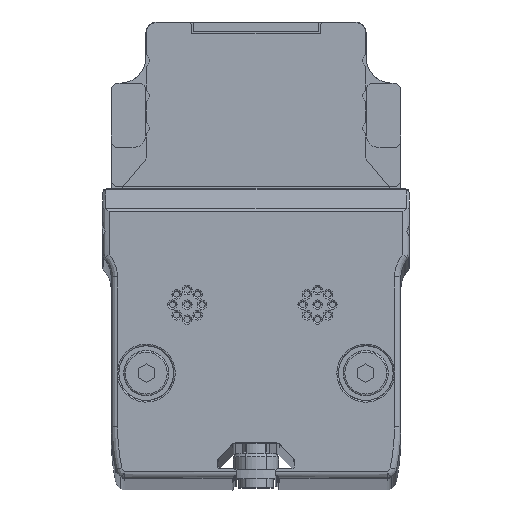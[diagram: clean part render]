
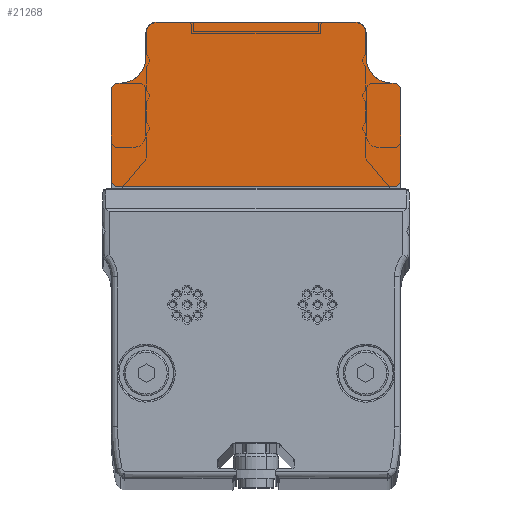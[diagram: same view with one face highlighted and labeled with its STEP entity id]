
A CAD part, top view. The second image highlights one B-rep face of the part: STEP entity #21268.
In plain terms, the highlighted planar face has unit normal (0, 0, 1).
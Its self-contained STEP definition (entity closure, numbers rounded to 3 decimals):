
#25 = EDGE_CURVE ( 'NONE', #8576, #2369, #17615, .T. ) ;
#31 = CARTESIAN_POINT ( 'NONE',  ( 21.1, 38.9, 1004. ) ) ;
#43 = ORIENTED_EDGE ( 'NONE', *, *, #28487, .F. ) ;
#398 = EDGE_LOOP ( 'NONE', ( #7711, #15125, #22233, #20489, #43, #25887, #6424, #26645, #848, #17654, #24917, #5018, #15417, #24549, #20067, #12715 ) ) ;
#848 = ORIENTED_EDGE ( 'NONE', *, *, #3444, .T. ) ;
#1324 = VERTEX_POINT ( 'NONE', #30968 ) ;
#1342 = AXIS2_PLACEMENT_3D ( 'NONE', #13102, #5169, #7816 ) ;
#1560 = DIRECTION ( 'NONE',  ( -1., 0., 0. ) ) ;
#1963 = DIRECTION ( 'NONE',  ( 0., -1., 0. ) ) ;
#2232 = EDGE_CURVE ( 'NONE', #1324, #15351, #28354, .T. ) ;
#2369 = VERTEX_POINT ( 'NONE', #28993 ) ;
#2702 = AXIS2_PLACEMENT_3D ( 'NONE', #4926, #27467, #18009 ) ;
#3075 = CARTESIAN_POINT ( 'NONE',  ( -21.1, 42.9, 1004. ) ) ;
#3444 = EDGE_CURVE ( 'NONE', #9027, #16731, #7230, .T. ) ;
#3655 = CARTESIAN_POINT ( 'NONE',  ( 21.5, 38.9, 1004. ) ) ;
#3689 = DIRECTION ( 'NONE',  ( 1., 0., 0. ) ) ;
#3699 = VERTEX_POINT ( 'NONE', #24932 ) ;
#4036 = VERTEX_POINT ( 'NONE', #24227 ) ;
#4263 = CARTESIAN_POINT ( 'NONE',  ( -17.1, 42.9, 1004. ) ) ;
#4317 = EDGE_CURVE ( 'NONE', #1324, #24872, #6950, .T. ) ;
#4458 = CARTESIAN_POINT ( 'NONE',  ( -17.1, 0., 1004. ) ) ;
#4527 = AXIS2_PLACEMENT_3D ( 'NONE', #7527, #5199, #10670 ) ;
#4543 = DIRECTION ( 'NONE',  ( 1., 0., 0. ) ) ;
#4750 = VECTOR ( 'NONE', #15537, 1000. ) ;
#4784 = CARTESIAN_POINT ( 'NONE',  ( 17.1, 46.8, 1004. ) ) ;
#4890 = CARTESIAN_POINT ( 'NONE',  ( 0., 48.4, 1004. ) ) ;
#4911 = CARTESIAN_POINT ( 'NONE',  ( 0., 38.9, 1004. ) ) ;
#4926 = CARTESIAN_POINT ( 'NONE',  ( 21.5, 23.8, 1004. ) ) ;
#5018 = ORIENTED_EDGE ( 'NONE', *, *, #21529, .F. ) ;
#5169 = DIRECTION ( 'NONE',  ( 0., 0., -1. ) ) ;
#5199 = DIRECTION ( 'NONE',  ( 0., 0., 1. ) ) ;
#5603 = CARTESIAN_POINT ( 'NONE',  ( -22.5, 0., 1004. ) ) ;
#5668 = DIRECTION ( 'NONE',  ( 0., 1., 0. ) ) ;
#5865 = EDGE_CURVE ( 'NONE', #19615, #8576, #16985, .T. ) ;
#6424 = ORIENTED_EDGE ( 'NONE', *, *, #25, .T. ) ;
#6950 = LINE ( 'NONE', #4458, #28356 ) ;
#7100 = VECTOR ( 'NONE', #28083, 1000. ) ;
#7230 = LINE ( 'NONE', #4911, #32522 ) ;
#7527 = CARTESIAN_POINT ( 'NONE',  ( -21.5, 37.9, 1004. ) ) ;
#7711 = ORIENTED_EDGE ( 'NONE', *, *, #8508, .F. ) ;
#7816 = DIRECTION ( 'NONE',  ( -1., 0., 0. ) ) ;
#7866 = CARTESIAN_POINT ( 'NONE',  ( 0., 38.9, 1004. ) ) ;
#8004 = VERTEX_POINT ( 'NONE', #30600 ) ;
#8336 = CARTESIAN_POINT ( 'NONE',  ( -15.5, 48.4, 1004. ) ) ;
#8393 = EDGE_CURVE ( 'NONE', #27832, #15351, #22790, .T. ) ;
#8508 = EDGE_CURVE ( 'NONE', #27858, #3699, #28562, .T. ) ;
#8576 = VERTEX_POINT ( 'NONE', #11494 ) ;
#8824 = CARTESIAN_POINT ( 'NONE',  ( 21.1, 42.9, 1004. ) ) ;
#9027 = VERTEX_POINT ( 'NONE', #3655 ) ;
#9282 = VECTOR ( 'NONE', #5668, 1000. ) ;
#9744 = DIRECTION ( 'NONE',  ( 0., 0., 1. ) ) ;
#10621 = VERTEX_POINT ( 'NONE', #4784 ) ;
#10661 = CARTESIAN_POINT ( 'NONE',  ( 22.5, 0., 1004. ) ) ;
#10670 = DIRECTION ( 'NONE',  ( 1., 0., 0. ) ) ;
#11494 = CARTESIAN_POINT ( 'NONE',  ( 22.5, 23.8, 1004. ) ) ;
#11509 = EDGE_CURVE ( 'NONE', #27858, #12243, #18814, .T. ) ;
#11967 = AXIS2_PLACEMENT_3D ( 'NONE', #3075, #31057, #28108 ) ;
#12243 = VERTEX_POINT ( 'NONE', #28427 ) ;
#12244 = EDGE_CURVE ( 'NONE', #24872, #3699, #26235, .T. ) ;
#12348 = EDGE_CURVE ( 'NONE', #2369, #9027, #23612, .T. ) ;
#12715 = ORIENTED_EDGE ( 'NONE', *, *, #12244, .T. ) ;
#13102 = CARTESIAN_POINT ( 'NONE',  ( -15.5, 46.8, 1004. ) ) ;
#13116 = AXIS2_PLACEMENT_3D ( 'NONE', #8824, #16448, #3689 ) ;
#13205 = CARTESIAN_POINT ( 'NONE',  ( -21.5, 22.8, 1004. ) ) ;
#13364 = CARTESIAN_POINT ( 'NONE',  ( -21.5, 23.8, 1004. ) ) ;
#15125 = ORIENTED_EDGE ( 'NONE', *, *, #11509, .T. ) ;
#15351 = VERTEX_POINT ( 'NONE', #8336 ) ;
#15417 = ORIENTED_EDGE ( 'NONE', *, *, #8393, .T. ) ;
#15537 = DIRECTION ( 'NONE',  ( 0., 1., 0. ) ) ;
#16231 = CIRCLE ( 'NONE', #29929, 1. ) ;
#16448 = DIRECTION ( 'NONE',  ( 0., 0., -1. ) ) ;
#16486 = LINE ( 'NONE', #19295, #21585 ) ;
#16731 = VERTEX_POINT ( 'NONE', #31 ) ;
#16985 = CIRCLE ( 'NONE', #2702, 1. ) ;
#17151 = VECTOR ( 'NONE', #17642, 1000. ) ;
#17361 = DIRECTION ( 'NONE',  ( -1., 0., 0. ) ) ;
#17615 = LINE ( 'NONE', #10661, #9282 ) ;
#17642 = DIRECTION ( 'NONE',  ( -1., 0., 0. ) ) ;
#17654 = ORIENTED_EDGE ( 'NONE', *, *, #28919, .T. ) ;
#17713 = CARTESIAN_POINT ( 'NONE',  ( 15.5, 48.4, 1004. ) ) ;
#18009 = DIRECTION ( 'NONE',  ( 1., 0., 0. ) ) ;
#18225 = CARTESIAN_POINT ( 'NONE',  ( 17.1, 0., 1004. ) ) ;
#18814 = CIRCLE ( 'NONE', #4527, 1. ) ;
#18822 = DIRECTION ( 'NONE',  ( -1., 0., 0. ) ) ;
#18888 = AXIS2_PLACEMENT_3D ( 'NONE', #22500, #9744, #17361 ) ;
#18987 = DIRECTION ( 'NONE',  ( 0., 0., 1. ) ) ;
#19295 = CARTESIAN_POINT ( 'NONE',  ( 0., 22.8, 1004. ) ) ;
#19446 = VERTEX_POINT ( 'NONE', #13205 ) ;
#19615 = VERTEX_POINT ( 'NONE', #23964 ) ;
#20067 = ORIENTED_EDGE ( 'NONE', *, *, #4317, .T. ) ;
#20489 = ORIENTED_EDGE ( 'NONE', *, *, #21488, .T. ) ;
#20994 = LINE ( 'NONE', #5603, #4750 ) ;
#21268 = ADVANCED_FACE ( 'NONE', ( #24828 ), #27643, .T. ) ;
#21488 = EDGE_CURVE ( 'NONE', #8004, #19446, #16231, .T. ) ;
#21529 = EDGE_CURVE ( 'NONE', #27832, #10621, #22055, .T. ) ;
#21585 = VECTOR ( 'NONE', #1560, 1000. ) ;
#21943 = CARTESIAN_POINT ( 'NONE',  ( 21.5, 37.9, 1004. ) ) ;
#22055 = CIRCLE ( 'NONE', #23126, 1.6 ) ;
#22233 = ORIENTED_EDGE ( 'NONE', *, *, #26937, .F. ) ;
#22500 = CARTESIAN_POINT ( 'NONE',  ( 0., 0., 1004. ) ) ;
#22790 = LINE ( 'NONE', #4890, #17151 ) ;
#23126 = AXIS2_PLACEMENT_3D ( 'NONE', #31400, #31246, #18822 ) ;
#23612 = CIRCLE ( 'NONE', #27868, 1. ) ;
#23964 = CARTESIAN_POINT ( 'NONE',  ( 21.5, 22.8, 1004. ) ) ;
#24227 = CARTESIAN_POINT ( 'NONE',  ( 17.1, 42.9, 1004. ) ) ;
#24463 = DIRECTION ( 'NONE',  ( -1., 0., 0. ) ) ;
#24549 = ORIENTED_EDGE ( 'NONE', *, *, #2232, .F. ) ;
#24685 = CARTESIAN_POINT ( 'NONE',  ( -21.5, 38.9, 1004. ) ) ;
#24828 = FACE_OUTER_BOUND ( 'NONE', #398, .T. ) ;
#24872 = VERTEX_POINT ( 'NONE', #4263 ) ;
#24917 = ORIENTED_EDGE ( 'NONE', *, *, #29743, .F. ) ;
#24932 = CARTESIAN_POINT ( 'NONE',  ( -21.1, 38.9, 1004. ) ) ;
#25887 = ORIENTED_EDGE ( 'NONE', *, *, #5865, .T. ) ;
#26010 = LINE ( 'NONE', #18225, #31120 ) ;
#26235 = CIRCLE ( 'NONE', #11967, 4. ) ;
#26645 = ORIENTED_EDGE ( 'NONE', *, *, #12348, .T. ) ;
#26937 = EDGE_CURVE ( 'NONE', #8004, #12243, #20994, .T. ) ;
#27078 = DIRECTION ( 'NONE',  ( 0., 0., 1. ) ) ;
#27467 = DIRECTION ( 'NONE',  ( 0., 0., 1. ) ) ;
#27643 = PLANE ( 'NONE',  #18888 ) ;
#27832 = VERTEX_POINT ( 'NONE', #17713 ) ;
#27858 = VERTEX_POINT ( 'NONE', #24685 ) ;
#27868 = AXIS2_PLACEMENT_3D ( 'NONE', #21943, #27078, #4543 ) ;
#28023 = DIRECTION ( 'NONE',  ( 0., -1., 0. ) ) ;
#28083 = DIRECTION ( 'NONE',  ( 1., 0., 0. ) ) ;
#28108 = DIRECTION ( 'NONE',  ( 1., 0., 0. ) ) ;
#28354 = CIRCLE ( 'NONE', #1342, 1.6 ) ;
#28356 = VECTOR ( 'NONE', #1963, 1000. ) ;
#28427 = CARTESIAN_POINT ( 'NONE',  ( -22.5, 37.9, 1004. ) ) ;
#28487 = EDGE_CURVE ( 'NONE', #19615, #19446, #16486, .T. ) ;
#28562 = LINE ( 'NONE', #7866, #7100 ) ;
#28919 = EDGE_CURVE ( 'NONE', #16731, #4036, #30571, .T. ) ;
#28993 = CARTESIAN_POINT ( 'NONE',  ( 22.5, 37.9, 1004. ) ) ;
#29743 = EDGE_CURVE ( 'NONE', #10621, #4036, #26010, .T. ) ;
#29929 = AXIS2_PLACEMENT_3D ( 'NONE', #13364, #18987, #31566 ) ;
#30571 = CIRCLE ( 'NONE', #13116, 4. ) ;
#30600 = CARTESIAN_POINT ( 'NONE',  ( -22.5, 23.8, 1004. ) ) ;
#30968 = CARTESIAN_POINT ( 'NONE',  ( -17.1, 46.8, 1004. ) ) ;
#31057 = DIRECTION ( 'NONE',  ( 0., 0., -1. ) ) ;
#31120 = VECTOR ( 'NONE', #28023, 1000. ) ;
#31246 = DIRECTION ( 'NONE',  ( 0., 0., -1. ) ) ;
#31400 = CARTESIAN_POINT ( 'NONE',  ( 15.5, 46.8, 1004. ) ) ;
#31566 = DIRECTION ( 'NONE',  ( 1., 0., 0. ) ) ;
#32522 = VECTOR ( 'NONE', #24463, 1000. ) ;
